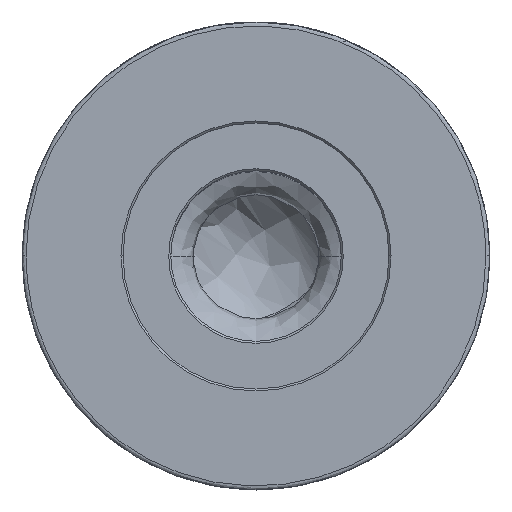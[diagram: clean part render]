
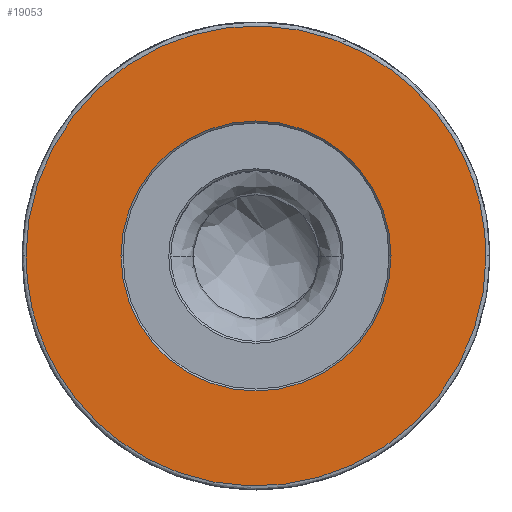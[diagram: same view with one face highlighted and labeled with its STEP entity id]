
A CAD part, top view. The second image highlights one B-rep face of the part: STEP entity #19053.
In plain terms, the highlighted planar face has unit normal (0, 0, 1).
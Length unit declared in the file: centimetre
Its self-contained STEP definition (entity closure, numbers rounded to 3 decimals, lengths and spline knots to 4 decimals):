
#4854 = EDGE_CURVE ( 'NONE', #23579, #23582, #28938, .T. ) ;
#5125 = CARTESIAN_POINT ( 'NONE',  ( 1.4732, 0., 0. ) ) ;
#5133 = CARTESIAN_POINT ( 'NONE',  ( -0.8649, 0., 0. ) ) ;
#5138 = CARTESIAN_POINT ( 'NONE',  ( 0.8649, 0., 0. ) ) ;
#5277 = CARTESIAN_POINT ( 'NONE',  ( -1.4732, 0., 0. ) ) ;
#5350 = EDGE_CURVE ( 'NONE', #24147, #23487, #24564, .T. ) ;
#11637 = CARTESIAN_POINT ( 'NONE',  ( 0., 0., 0. ) ) ;
#11638 = DIRECTION ( 'NONE',  ( 0., 0., -1. ) ) ;
#11639 = DIRECTION ( 'NONE',  ( 1., 0., 0. ) ) ;
#14017 = CARTESIAN_POINT ( 'NONE',  ( 1.4732, -2.9464, 0. ) ) ;
#14019 = CARTESIAN_POINT ( 'NONE',  ( 1.4732, 0., 0. ) ) ;
#14030 = CARTESIAN_POINT ( 'NONE',  ( -1.4732, -2.9464, 0. ) ) ;
#14032 = CARTESIAN_POINT ( 'NONE',  ( -1.4732, 0., 0. ) ) ;
#19053 = ADVANCED_FACE ( 'NONE', ( #29040, #29156 ), #31117, .T. ) ;
#23487 = VERTEX_POINT ( 'NONE', #5125 ) ;
#23515 = EDGE_LOOP ( 'NONE', ( #24090, #32677 ) ) ;
#23547 = EDGE_LOOP ( 'NONE', ( #24337, #24449 ) ) ;
#23579 = VERTEX_POINT ( 'NONE', #5133 ) ;
#23582 = VERTEX_POINT ( 'NONE', #5138 ) ;
#24090 = ORIENTED_EDGE ( 'NONE', *, *, #33299, .F. ) ;
#24147 = VERTEX_POINT ( 'NONE', #5277 ) ;
#24337 = ORIENTED_EDGE ( 'NONE', *, *, #33128, .T. ) ;
#24449 = ORIENTED_EDGE ( 'NONE', *, *, #4854, .T. ) ;
#24564 =( BOUNDED_CURVE ( )  B_SPLINE_CURVE ( 3, ( #24997, #24992, #25150, #24993 ),
 .UNSPECIFIED., .F., .T. ) 
 B_SPLINE_CURVE_WITH_KNOTS ( ( 4, 4 ),
 ( 0.5, 1. ),
 .UNSPECIFIED. ) 
 CURVE ( )  GEOMETRIC_REPRESENTATION_ITEM ( )  RATIONAL_B_SPLINE_CURVE ( ( 1., 0.333, 0.333, 1. ) ) 
 REPRESENTATION_ITEM ( '' )  );
#24992 = CARTESIAN_POINT ( 'NONE',  ( -1.4732, 2.9464, 0. ) ) ;
#24993 = CARTESIAN_POINT ( 'NONE',  ( 1.4732, 0., 0. ) ) ;
#24997 = CARTESIAN_POINT ( 'NONE',  ( -1.4732, 0., 0. ) ) ;
#25150 = CARTESIAN_POINT ( 'NONE',  ( 1.4732, 2.9464, 0. ) ) ;
#27187 = CARTESIAN_POINT ( 'NONE',  ( 0., 0., 0. ) ) ;
#27252 = DIRECTION ( 'NONE',  ( 1., 0., 0. ) ) ;
#27255 = DIRECTION ( 'NONE',  ( 0., 0., -1. ) ) ;
#28354 =( BOUNDED_CURVE ( )  B_SPLINE_CURVE ( 3, ( #14019, #14017, #14030, #14032 ),
 .UNSPECIFIED., .F., .T. ) 
 B_SPLINE_CURVE_WITH_KNOTS ( ( 4, 4 ),
 ( 0., 0.5 ),
 .UNSPECIFIED. ) 
 CURVE ( )  GEOMETRIC_REPRESENTATION_ITEM ( )  RATIONAL_B_SPLINE_CURVE ( ( 1., 0.333, 0.333, 1. ) ) 
 REPRESENTATION_ITEM ( '' )  );
#28938 = CIRCLE ( 'NONE', #32948, 0.8649 ) ;
#29040 = FACE_OUTER_BOUND ( 'NONE', #23515, .T. ) ;
#29156 = FACE_BOUND ( 'NONE', #23547, .T. ) ;
#29240 = CIRCLE ( 'NONE', #33079, 0.8649 ) ;
#30997 = CARTESIAN_POINT ( 'NONE',  ( 0.8522, 0., 0. ) ) ;
#31117 = PLANE ( 'NONE',  #32889 ) ;
#31119 = DIRECTION ( 'NONE',  ( 0., 0., 1. ) ) ;
#31120 = DIRECTION ( 'NONE',  ( 1., 0., 0. ) ) ;
#32677 = ORIENTED_EDGE ( 'NONE', *, *, #5350, .F. ) ;
#32889 = AXIS2_PLACEMENT_3D ( 'NONE', #30997, #31119, #31120 ) ;
#32948 = AXIS2_PLACEMENT_3D ( 'NONE', #27187, #27255, #27252 ) ;
#33079 = AXIS2_PLACEMENT_3D ( 'NONE', #11637, #11638, #11639 ) ;
#33128 = EDGE_CURVE ( 'NONE', #23582, #23579, #29240, .T. ) ;
#33299 = EDGE_CURVE ( 'NONE', #23487, #24147, #28354, .T. ) ;
